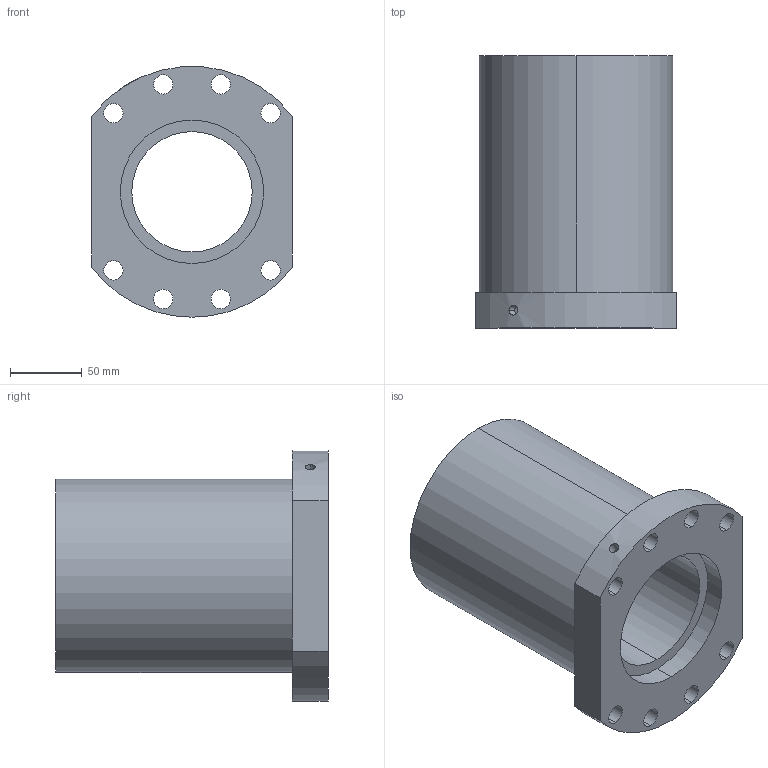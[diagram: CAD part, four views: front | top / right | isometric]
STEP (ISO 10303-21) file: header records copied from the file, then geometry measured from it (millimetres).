
FILE_DESCRIPTION (( 'STEP AP203' ), '1' );
FILE_NAME ('DEBH8020-R-7GP.STEP', '2008-12-18T15:30:56', ( 'Hiwin Technologie GmbH' ), ( '77654 Offenburg' ), 'SwSTEP 2.0', 'SolidWorks 2008', '' );
FILE_SCHEMA (( 'CONFIG_CONTROL_DESIGN' ));
Length unit declared in the file: millimetre
Products named in the file (1): DEBH8020-R-7GP
Bounding box: 140 x 190 x 174.69 mm (x, y, z)
Volume: 1754601.1 mm3; surface area: 173257.8 mm2
Topology: 1 solids, 1 shells, 37 faces, 93 edges, 62 vertices
Faces by surface type: cylinder 28, plane 7, bspline 2
Entity records: 1354 total; most frequent: CARTESIAN_POINT 307, DIRECTION 215, ORIENTED_EDGE 186, EDGE_CURVE 93, AXIS2_PLACEMENT_3D 90, VERTEX_POINT 62, EDGE_LOOP 59, CIRCLE 54
